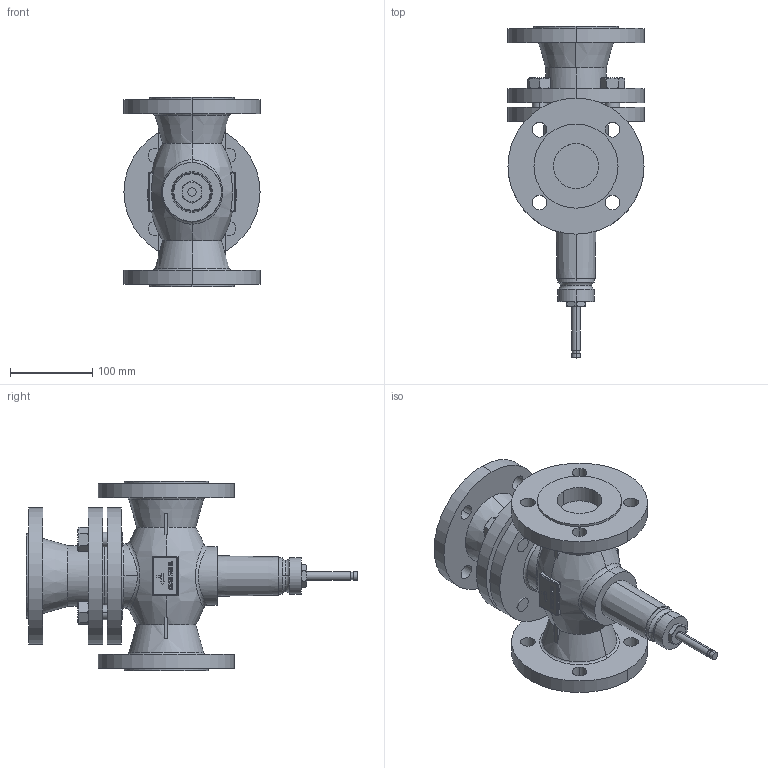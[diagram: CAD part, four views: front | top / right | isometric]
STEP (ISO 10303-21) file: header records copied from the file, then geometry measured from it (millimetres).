
FILE_DESCRIPTION((''),'2;1');
FILE_NAME('000323.dwg.stp','2006-10-23T13:46:12',(''),(''),'Mechanical Desktop 2006','Mechanical Desktop 2006',', , ');
FILE_SCHEMA(('AUTOMOTIVE_DESIGN { 1 2 10303 214 0 1 1 1 }'));
Length unit declared in the file: millimetre
Products named in the file (1): Product
Bounding box: 165 x 402.5 x 230 mm (x, y, z)
Volume: 3569531.8 mm3; surface area: 417875.2 mm2
Topology: 36 solids, 36 shells, 624 faces, 1601 edges, 1049 vertices
Faces by surface type: cylinder 278, plane 238, bspline 86, cone 10, sphere 8, torus 4
Entity records: 20868 total; most frequent: CARTESIAN_POINT 5725, ORIENTED_EDGE 3186, DIRECTION 3120, EDGE_CURVE 1593, AXIS2_PLACEMENT_3D 1149, VERTEX_POINT 1049, VECTOR 822, LINE 822
